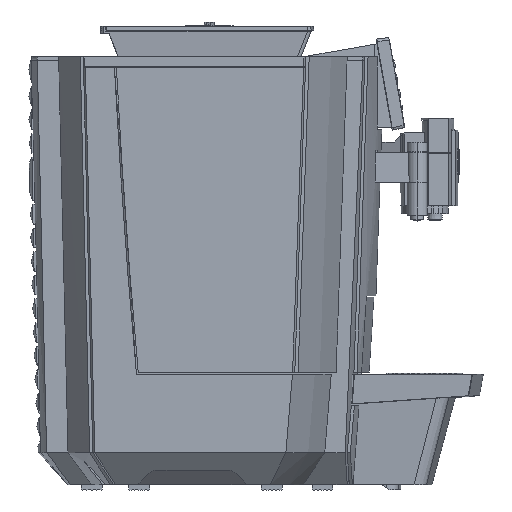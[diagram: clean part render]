
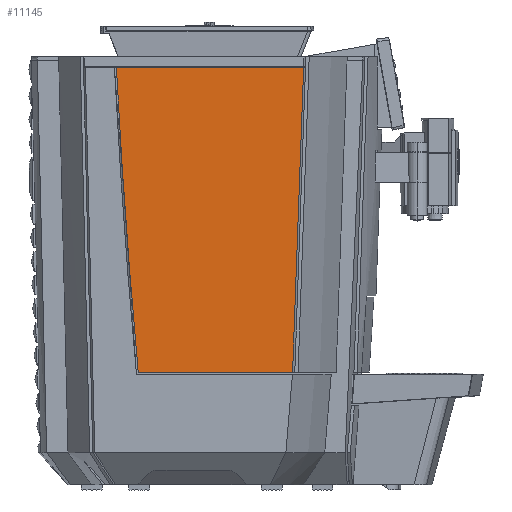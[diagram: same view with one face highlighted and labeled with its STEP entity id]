
A CAD part, left-side view. The second image highlights one B-rep face of the part: STEP entity #11145.
In plain terms, the highlighted planar face has unit normal (-1, 0, 0).
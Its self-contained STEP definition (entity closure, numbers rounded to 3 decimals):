
#1912 = DIRECTION ( 'NONE',  ( 0., 1., 0. ) ) ;
#3648 = EDGE_CURVE ( 'NONE', #84291, #15877, #13119, .T. ) ;
#3922 = ORIENTED_EDGE ( 'NONE', *, *, #44772, .T. ) ;
#5389 = CARTESIAN_POINT ( 'NONE',  ( -243., 70.839, 272.616 ) ) ;
#6263 = CARTESIAN_POINT ( 'NONE',  ( -243., 80.065, 120. ) ) ;
#7269 = CARTESIAN_POINT ( 'NONE',  ( -243., 68.966, 425.5 ) ) ;
#10869 = AXIS2_PLACEMENT_3D ( 'NONE', #37220, #85447, #44118 ) ;
#11145 = ADVANCED_FACE ( 'NONE', ( #52104 ), #71573, .F. ) ;
#12342 = CARTESIAN_POINT ( 'NONE',  ( -243., 68.966, 425.5 ) ) ;
#13119 = LINE ( 'NONE', #50128, #47593 ) ;
#14340 = CARTESIAN_POINT ( 'NONE',  ( -243., 235.112, 120. ) ) ;
#14357 = ORIENTED_EDGE ( 'NONE', *, *, #70994, .T. ) ;
#15877 = VERTEX_POINT ( 'NONE', #14340 ) ;
#16421 = EDGE_LOOP ( 'NONE', ( #14357, #87413, #3922, #44144 ) ) ;
#20483 = VECTOR ( 'NONE', #74308, 1000. ) ;
#27134 = B_SPLINE_CURVE_WITH_KNOTS ( 'NONE', 3,
 ( #39715, #87971, #5389, #53610, #12342 ),
 .UNSPECIFIED., .F., .F.,
 ( 4, 1, 4 ),
 ( 0., 0.153, 0.306 ),
 .UNSPECIFIED. ) ;
#32308 = CIRCLE ( 'NONE', #54001, 7933.22 ) ;
#33109 = CARTESIAN_POINT ( 'NONE',  ( -243., -7665.346, 840.248 ) ) ;
#35592 = CARTESIAN_POINT ( 'NONE',  ( -243., 257.026, 425.5 ) ) ;
#37220 = CARTESIAN_POINT ( 'NONE',  ( -243., -437.763, 43.743 ) ) ;
#39715 = CARTESIAN_POINT ( 'NONE',  ( -243., 80.065, 120. ) ) ;
#40005 = DIRECTION ( 'NONE',  ( 0., 0., -1. ) ) ;
#44118 = DIRECTION ( 'NONE',  ( 0., 0., -1. ) ) ;
#44144 = ORIENTED_EDGE ( 'NONE', *, *, #3648, .F. ) ;
#44772 = EDGE_CURVE ( 'NONE', #83844, #15877, #32308, .T. ) ;
#46576 = CARTESIAN_POINT ( 'NONE',  ( -243., -437.763, 425.5 ) ) ;
#47593 = VECTOR ( 'NONE', #1912, 1000. ) ;
#50128 = CARTESIAN_POINT ( 'NONE',  ( -243., 532.404, 120. ) ) ;
#52104 = FACE_OUTER_BOUND ( 'NONE', #16421, .T. ) ;
#53610 = CARTESIAN_POINT ( 'NONE',  ( -243., 68.976, 374.516 ) ) ;
#54001 = AXIS2_PLACEMENT_3D ( 'NONE', #33109, #81294, #40005 ) ;
#67636 = EDGE_CURVE ( 'NONE', #76185, #83844, #75485, .T. ) ;
#70994 = EDGE_CURVE ( 'NONE', #84291, #76185, #27134, .T. ) ;
#71573 = PLANE ( 'NONE',  #10869 ) ;
#74308 = DIRECTION ( 'NONE',  ( 0., 1., 0. ) ) ;
#75485 = LINE ( 'NONE', #46576, #20483 ) ;
#76185 = VERTEX_POINT ( 'NONE', #7269 ) ;
#81294 = DIRECTION ( 'NONE',  ( -1., 0., 0. ) ) ;
#83844 = VERTEX_POINT ( 'NONE', #35592 ) ;
#84291 = VERTEX_POINT ( 'NONE', #6263 ) ;
#85447 = DIRECTION ( 'NONE',  ( 1., 0., 0. ) ) ;
#87413 = ORIENTED_EDGE ( 'NONE', *, *, #67636, .T. ) ;
#87971 = CARTESIAN_POINT ( 'NONE',  ( -243., 76.379, 170.85 ) ) ;
